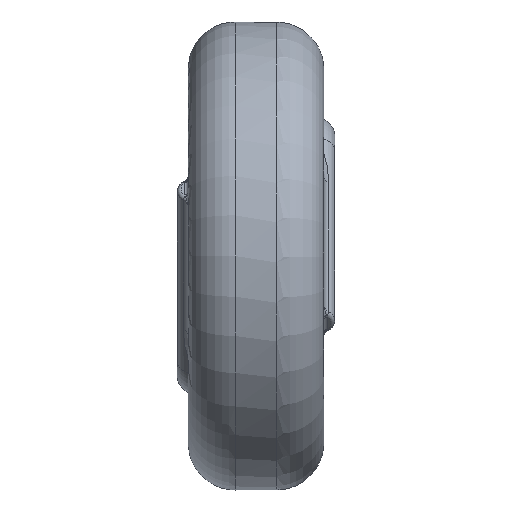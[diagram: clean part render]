
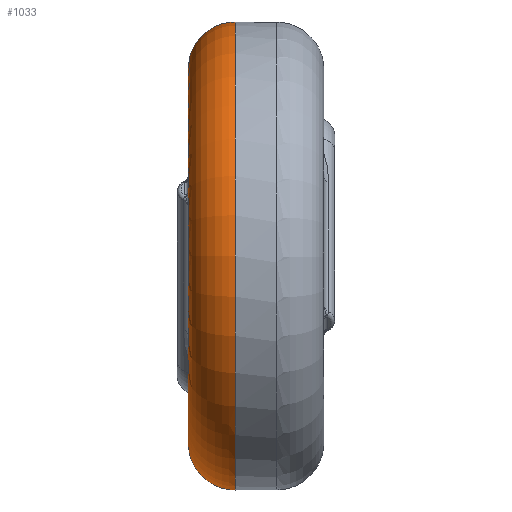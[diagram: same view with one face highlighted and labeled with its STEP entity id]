
A CAD part, left-side view. The second image highlights one B-rep face of the part: STEP entity #1033.
In plain terms, the highlighted toroidal (fillet/blend) face has major radius 9.95 mm and minor radius 2.5 mm.
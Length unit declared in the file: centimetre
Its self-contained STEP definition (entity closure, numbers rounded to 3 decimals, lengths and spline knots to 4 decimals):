
#746=CARTESIAN_POINT('',(0.8981,0.64,-0.4282));
#747=VERTEX_POINT('',#746);
#803=CARTESIAN_POINT('',(0.9952,0.551,-0.6455));
#804=VERTEX_POINT('',#803);
#812=CARTESIAN_POINT('',(0.9952,0.551,-0.6455));
#813=CARTESIAN_POINT('',(0.9862,0.5685,-0.6324));
#814=CARTESIAN_POINT('',(0.9706,0.5977,-0.5959));
#815=CARTESIAN_POINT('',(0.9439,0.6303,-0.5182));
#816=CARTESIAN_POINT('',(0.9186,0.64,-0.4593));
#817=CARTESIAN_POINT('',(0.8981,0.64,-0.4282));
#818=B_SPLINE_CURVE_WITH_KNOTS('',3,(#812,#813,#814,#815,#816,#817),.UNSPECIFIED.,.F.,.U.,(4,1,1,4),(-0.3242,-0.2316,-0.139,0.),.UNSPECIFIED.);
#819=EDGE_CURVE('',#804,#747,#818,.T.);
#879=CARTESIAN_POINT('',(1.1336,0.414,-0.5119));
#880=VERTEX_POINT('',#879);
#888=CARTESIAN_POINT('',(1.1336,0.414,-0.5119));
#889=CARTESIAN_POINT('',(1.1217,0.4106,-0.5391));
#890=CARTESIAN_POINT('',(1.0942,0.4139,-0.5944));
#891=CARTESIAN_POINT('',(1.0534,0.4535,-0.6524));
#892=CARTESIAN_POINT('',(1.0189,0.5066,-0.6682));
#893=CARTESIAN_POINT('',(1.0022,0.5375,-0.6557));
#894=CARTESIAN_POINT('',(0.9952,0.551,-0.6455));
#895=B_SPLINE_CURVE_WITH_KNOTS('',3,(#888,#889,#890,#891,#892,#893,#894),.UNSPECIFIED.,.F.,.U.,(4,1,1,1,4),(-0.3355,-0.2396,-0.1438,-0.0719,0.),.UNSPECIFIED.);
#896=EDGE_CURVE('',#880,#804,#895,.T.);
#961=CARTESIAN_POINT('',(0.9875,0.64,-0.1216));
#962=VERTEX_POINT('',#961);
#970=CARTESIAN_POINT('',(0.9875,0.64,-0.1216));
#971=CARTESIAN_POINT('',(1.0158,0.64,-0.1668));
#972=CARTESIAN_POINT('',(1.0688,0.6279,-0.2201));
#973=CARTESIAN_POINT('',(1.1477,0.5663,-0.2845));
#974=CARTESIAN_POINT('',(1.1875,0.4735,-0.3607));
#975=CARTESIAN_POINT('',(1.1563,0.4206,-0.4601));
#976=CARTESIAN_POINT('',(1.1336,0.414,-0.5119));
#977=B_SPLINE_CURVE_WITH_KNOTS('',3,(#970,#971,#972,#973,#974,#975,#976),.UNSPECIFIED.,.F.,.U.,(4,1,1,1,4),(-1.3018,-1.1193,-1.0281,-0.8456,-0.663),.UNSPECIFIED.);
#978=EDGE_CURVE('',#962,#880,#977,.T.);
#1005=CARTESIAN_POINT('',(0.0,0.39,0.0));
#1006=DIRECTION('',(0.0,1.0,0.0));
#1007=DIRECTION('',(1.0,0.0,0.0));
#1008=AXIS2_PLACEMENT_3D('',#1005,#1006,#1007);
#1009=TOROIDAL_SURFACE('',#1008,0.995,0.25);
#1010=CARTESIAN_POINT('',(1.245,0.39,0.));
#1011=VERTEX_POINT('',#1010);
#1012=CARTESIAN_POINT('',(0.0,0.39,0.0));
#1013=DIRECTION('',(0.0,1.0,0.0));
#1014=DIRECTION('',(-1.0,0.0,0.0));
#1015=AXIS2_PLACEMENT_3D('',#1012,#1013,#1014);
#1016=CIRCLE('',#1015,1.245);
#1017=EDGE_CURVE('',#1011,#1011,#1016,.T.);
#1018=ORIENTED_EDGE('',*,*,#1017,.T.);
#1019=EDGE_LOOP('',(#1018));
#1020=FACE_OUTER_BOUND('',#1019,.T.);
#1021=ORIENTED_EDGE('',*,*,#978,.F.);
#1022=CARTESIAN_POINT('',(0.0,0.64,0.0));
#1023=DIRECTION('',(0.0,-1.0,0.0));
#1024=DIRECTION('',(-1.0,0.0,0.0));
#1025=AXIS2_PLACEMENT_3D('',#1022,#1023,#1024);
#1026=CIRCLE('',#1025,0.995);
#1027=EDGE_CURVE('',#962,#747,#1026,.T.);
#1028=ORIENTED_EDGE('',*,*,#1027,.T.);
#1029=ORIENTED_EDGE('',*,*,#819,.F.);
#1030=ORIENTED_EDGE('',*,*,#896,.F.);
#1031=EDGE_LOOP('',(#1021,#1028,#1029,#1030));
#1032=FACE_BOUND('',#1031,.T.);
#1033=ADVANCED_FACE('',(#1020,#1032),#1009,.T.);
